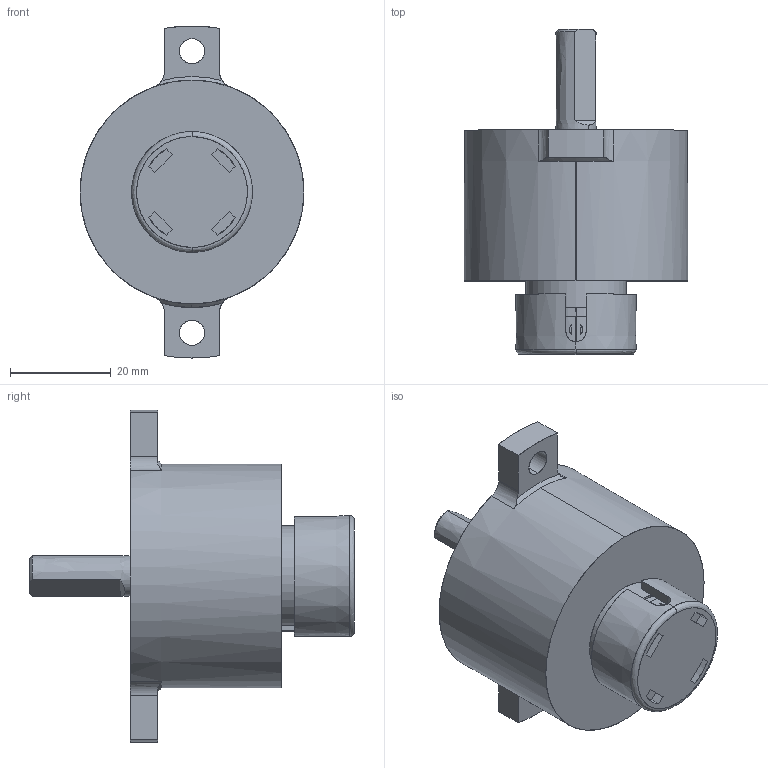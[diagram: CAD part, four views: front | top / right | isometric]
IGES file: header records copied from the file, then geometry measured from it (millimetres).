
Start section: SolidWorks IGES file using analytic representation for surfaces
Global section: file name: C:\3D-DATA\型式\R\【提出用】\IGS\FYN-H1-L.IGS; native system: SolidWorks 2014; preprocessor: SolidWorks 2014; author: flgijutsu; date: 140516.194015; units: millimetre
Bounding box: 44.5 x 64.6 x 66 mm (x, y, z)
Surface area: 11237 mm2 (no closed solid volume)
Topology: 0 solids, 0 shells, 90 faces, 1343 edges, 1343 vertices
Faces by surface type: bspline 52, revolution 38
